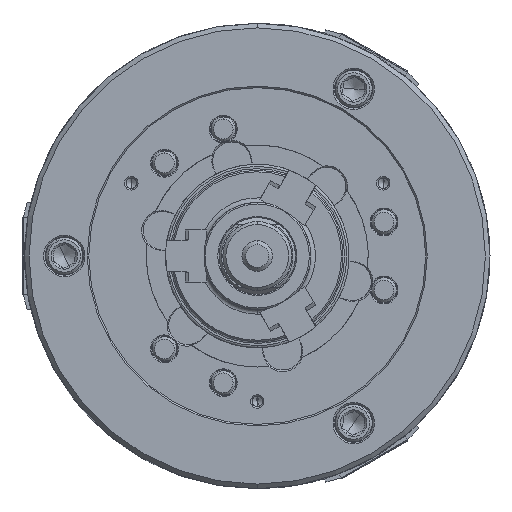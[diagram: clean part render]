
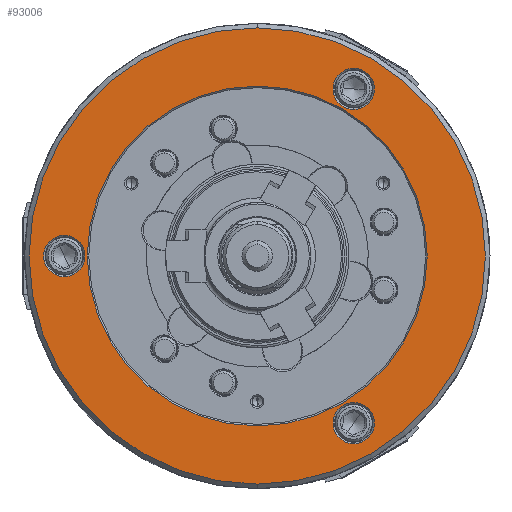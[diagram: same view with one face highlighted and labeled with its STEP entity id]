
A CAD part, left-side view. The second image highlights one B-rep face of the part: STEP entity #93006.
In plain terms, the highlighted planar face has unit normal (-1, 0, 0).
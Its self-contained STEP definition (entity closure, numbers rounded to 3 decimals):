
#70 = EDGE_CURVE ( 'NONE', #29668, #68864, #31119, .T. ) ;
#1072 = EDGE_LOOP ( 'NONE', ( #14265, #100840 ) ) ;
#1184 = CARTESIAN_POINT ( 'NONE',  ( -106., 0., 0. ) ) ;
#1302 = AXIS2_PLACEMENT_3D ( 'NONE', #1184, #97918, #48327 ) ;
#1784 = ORIENTED_EDGE ( 'NONE', *, *, #76130, .T. ) ;
#2779 = AXIS2_PLACEMENT_3D ( 'NONE', #67846, #79558, #97605 ) ;
#3244 = CIRCLE ( 'NONE', #1302, 149. ) ;
#6068 = FACE_OUTER_BOUND ( 'NONE', #42370, .T. ) ;
#6809 = DIRECTION ( 'NONE',  ( 1., 0., 0. ) ) ;
#9036 = AXIS2_PLACEMENT_3D ( 'NONE', #91823, #6809, #52124 ) ;
#10802 = DIRECTION ( 'NONE',  ( 1., 0., 0. ) ) ;
#10871 = CARTESIAN_POINT ( 'NONE',  ( -106., -63., -109.119 ) ) ;
#13539 = FACE_BOUND ( 'NONE', #19241, .T. ) ;
#14265 = ORIENTED_EDGE ( 'NONE', *, *, #82872, .T. ) ;
#16923 = CIRCLE ( 'NONE', #44620, 13.5 ) ;
#17298 = AXIS2_PLACEMENT_3D ( 'NONE', #57582, #68707, #48259 ) ;
#19241 = EDGE_LOOP ( 'NONE', ( #93289, #113615 ) ) ;
#28464 = CIRCLE ( 'NONE', #76026, 111. ) ;
#29352 = EDGE_LOOP ( 'NONE', ( #115731, #81229 ) ) ;
#29668 = VERTEX_POINT ( 'NONE', #71559 ) ;
#30511 = CARTESIAN_POINT ( 'NONE',  ( -106., -63., 109.119 ) ) ;
#31119 = CIRCLE ( 'NONE', #17298, 111. ) ;
#31534 = VERTEX_POINT ( 'NONE', #117815 ) ;
#33377 = FACE_BOUND ( 'NONE', #29352, .T. ) ;
#33664 = VERTEX_POINT ( 'NONE', #55309 ) ;
#35733 = VERTEX_POINT ( 'NONE', #70725 ) ;
#36424 = VERTEX_POINT ( 'NONE', #61578 ) ;
#36802 = DIRECTION ( 'NONE',  ( 1., 0., 0. ) ) ;
#40401 = DIRECTION ( 'NONE',  ( 1., 0., 0. ) ) ;
#40661 = CIRCLE ( 'NONE', #66339, 13.5 ) ;
#41052 = DIRECTION ( 'NONE',  ( 0., 0., -1. ) ) ;
#41811 = AXIS2_PLACEMENT_3D ( 'NONE', #10871, #86556, #94026 ) ;
#42370 = EDGE_LOOP ( 'NONE', ( #63518, #105406 ) ) ;
#44620 = AXIS2_PLACEMENT_3D ( 'NONE', #30511, #97507, #51541 ) ;
#48259 = DIRECTION ( 'NONE',  ( 0., 0., -1. ) ) ;
#48327 = DIRECTION ( 'NONE',  ( 0., 0., -1. ) ) ;
#48633 = AXIS2_PLACEMENT_3D ( 'NONE', #96275, #40401, #117301 ) ;
#50556 = CIRCLE ( 'NONE', #9036, 13.5 ) ;
#51181 = AXIS2_PLACEMENT_3D ( 'NONE', #89216, #60679, #99771 ) ;
#51541 = DIRECTION ( 'NONE',  ( 0., 0., -1. ) ) ;
#52124 = DIRECTION ( 'NONE',  ( 0., 0., -1. ) ) ;
#54004 = CARTESIAN_POINT ( 'NONE',  ( -106., 0., -111. ) ) ;
#55309 = CARTESIAN_POINT ( 'NONE',  ( -106., 0., -149. ) ) ;
#57582 = CARTESIAN_POINT ( 'NONE',  ( -106., 0., 0. ) ) ;
#57715 = CIRCLE ( 'NONE', #41811, 13.5 ) ;
#60248 = EDGE_LOOP ( 'NONE', ( #1784, #81944 ) ) ;
#60679 = DIRECTION ( 'NONE',  ( 1., 0., 0. ) ) ;
#60856 = DIRECTION ( 'NONE',  ( 1., 0., 0. ) ) ;
#61578 = CARTESIAN_POINT ( 'NONE',  ( -106., 0., 149. ) ) ;
#61896 = FACE_BOUND ( 'NONE', #1072, .T. ) ;
#63518 = ORIENTED_EDGE ( 'NONE', *, *, #74785, .F. ) ;
#64928 = VERTEX_POINT ( 'NONE', #90015 ) ;
#66339 = AXIS2_PLACEMENT_3D ( 'NONE', #75334, #10802, #95214 ) ;
#67846 = CARTESIAN_POINT ( 'NONE',  ( -106., 0., 0. ) ) ;
#68707 = DIRECTION ( 'NONE',  ( 1., 0., 0. ) ) ;
#68864 = VERTEX_POINT ( 'NONE', #54004 ) ;
#70725 = CARTESIAN_POINT ( 'NONE',  ( -106., 126., 13.5 ) ) ;
#71559 = CARTESIAN_POINT ( 'NONE',  ( -106., 0., 111. ) ) ;
#71614 = AXIS2_PLACEMENT_3D ( 'NONE', #121206, #36802, #110669 ) ;
#72678 = CARTESIAN_POINT ( 'NONE',  ( -106., -63., -95.619 ) ) ;
#74785 = EDGE_CURVE ( 'NONE', #33664, #36424, #86000, .T. ) ;
#75334 = CARTESIAN_POINT ( 'NONE',  ( -106., 126., 0. ) ) ;
#75699 = EDGE_CURVE ( 'NONE', #75786, #35733, #40661, .T. ) ;
#75786 = VERTEX_POINT ( 'NONE', #117446 ) ;
#76026 = AXIS2_PLACEMENT_3D ( 'NONE', #90629, #60856, #41052 ) ;
#76130 = EDGE_CURVE ( 'NONE', #35733, #75786, #90214, .T. ) ;
#76252 = EDGE_CURVE ( 'NONE', #116459, #31534, #50556, .T. ) ;
#76300 = VERTEX_POINT ( 'NONE', #96137 ) ;
#77835 = EDGE_CURVE ( 'NONE', #64928, #76300, #16923, .T. ) ;
#79558 = DIRECTION ( 'NONE',  ( 1., 0., 0. ) ) ;
#81229 = ORIENTED_EDGE ( 'NONE', *, *, #108655, .T. ) ;
#81944 = ORIENTED_EDGE ( 'NONE', *, *, #75699, .T. ) ;
#82872 = EDGE_CURVE ( 'NONE', #76300, #64928, #83492, .T. ) ;
#83492 = CIRCLE ( 'NONE', #71614, 13.5 ) ;
#86000 = CIRCLE ( 'NONE', #2779, 149. ) ;
#86556 = DIRECTION ( 'NONE',  ( 1., 0., 0. ) ) ;
#89216 = CARTESIAN_POINT ( 'NONE',  ( -106., -111., 0. ) ) ;
#90015 = CARTESIAN_POINT ( 'NONE',  ( -106., -63., 95.619 ) ) ;
#90214 = CIRCLE ( 'NONE', #48633, 13.5 ) ;
#90629 = CARTESIAN_POINT ( 'NONE',  ( -106., 0., 0. ) ) ;
#91780 = EDGE_CURVE ( 'NONE', #36424, #33664, #3244, .T. ) ;
#91823 = CARTESIAN_POINT ( 'NONE',  ( -106., -63., -109.119 ) ) ;
#93006 = ADVANCED_FACE ( 'NONE', ( #61896, #33377, #100996, #6068, #13539 ), #118983, .F. ) ;
#93289 = ORIENTED_EDGE ( 'NONE', *, *, #70, .T. ) ;
#94023 = EDGE_CURVE ( 'NONE', #68864, #29668, #28464, .T. ) ;
#94026 = DIRECTION ( 'NONE',  ( 0., 0., -1. ) ) ;
#95214 = DIRECTION ( 'NONE',  ( 0., 0., -1. ) ) ;
#96137 = CARTESIAN_POINT ( 'NONE',  ( -106., -63., 122.619 ) ) ;
#96275 = CARTESIAN_POINT ( 'NONE',  ( -106., 126., 0. ) ) ;
#97507 = DIRECTION ( 'NONE',  ( 1., 0., 0. ) ) ;
#97605 = DIRECTION ( 'NONE',  ( 0., 0., -1. ) ) ;
#97918 = DIRECTION ( 'NONE',  ( 1., 0., 0. ) ) ;
#99771 = DIRECTION ( 'NONE',  ( 0., 0., -1. ) ) ;
#100840 = ORIENTED_EDGE ( 'NONE', *, *, #77835, .T. ) ;
#100996 = FACE_BOUND ( 'NONE', #60248, .T. ) ;
#105406 = ORIENTED_EDGE ( 'NONE', *, *, #91780, .F. ) ;
#108655 = EDGE_CURVE ( 'NONE', #31534, #116459, #57715, .T. ) ;
#110669 = DIRECTION ( 'NONE',  ( 0., 0., -1. ) ) ;
#113615 = ORIENTED_EDGE ( 'NONE', *, *, #94023, .T. ) ;
#115731 = ORIENTED_EDGE ( 'NONE', *, *, #76252, .T. ) ;
#116459 = VERTEX_POINT ( 'NONE', #72678 ) ;
#117301 = DIRECTION ( 'NONE',  ( 0., 0., -1. ) ) ;
#117446 = CARTESIAN_POINT ( 'NONE',  ( -106., 126., -13.5 ) ) ;
#117815 = CARTESIAN_POINT ( 'NONE',  ( -106., -63., -122.619 ) ) ;
#118983 = PLANE ( 'NONE',  #51181 ) ;
#121206 = CARTESIAN_POINT ( 'NONE',  ( -106., -63., 109.119 ) ) ;
